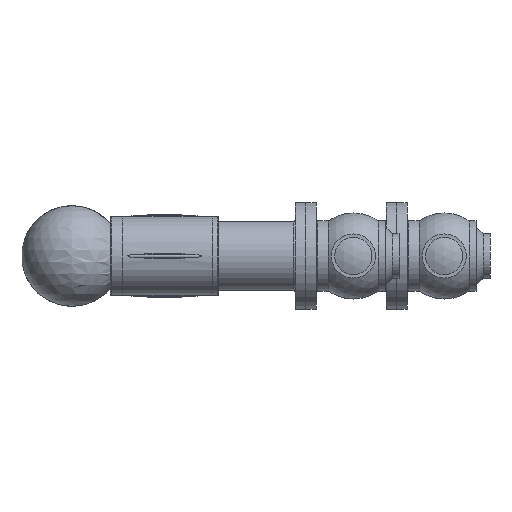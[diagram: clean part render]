
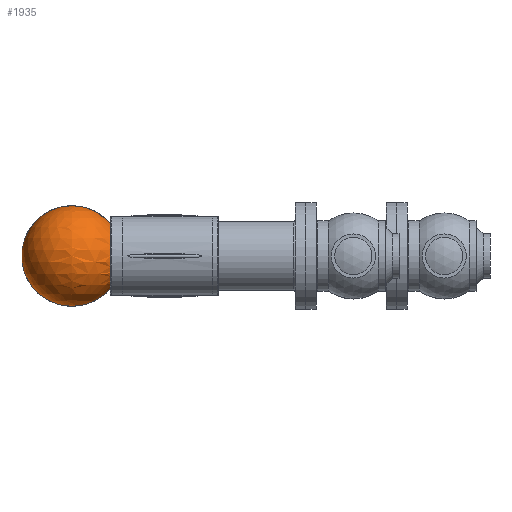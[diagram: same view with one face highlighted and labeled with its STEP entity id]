
A CAD part, left-side view. The second image highlights one B-rep face of the part: STEP entity #1935.
In plain terms, the highlighted spherical face has radius 72.5 mm.
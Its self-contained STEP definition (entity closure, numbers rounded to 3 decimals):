
#123=SPHERICAL_SURFACE('',#2257,72.5);
#355=FACE_BOUND('',#535,.T.);
#415=FACE_OUTER_BOUND('',#534,.T.);
#534=EDGE_LOOP('',(#1517,#1518));
#535=EDGE_LOOP('',(#1519));
#688=CIRCLE('',#2258,72.5);
#689=CIRCLE('',#2259,46.648);
#907=VERTEX_POINT('',#3754);
#908=VERTEX_POINT('',#3755);
#909=VERTEX_POINT('',#3757);
#1140=EDGE_CURVE('',#907,#908,#688,.T.);
#1141=EDGE_CURVE('',#909,#909,#689,.T.);
#1517=ORIENTED_EDGE('',*,*,#1140,.T.);
#1518=ORIENTED_EDGE('',*,*,#1140,.F.);
#1519=ORIENTED_EDGE('',*,*,#1141,.F.);
#1935=ADVANCED_FACE('',(#415,#355),#123,.T.);
#2257=AXIS2_PLACEMENT_3D('',#3753,#2717,#2718);
#2258=AXIS2_PLACEMENT_3D('',#3756,#2719,#2720);
#2259=AXIS2_PLACEMENT_3D('',#3758,#2721,#2722);
#2717=DIRECTION('center_axis',(0.,0.,1.));
#2718=DIRECTION('ref_axis',(1.,0.,0.));
#2719=DIRECTION('center_axis',(0.,-1.,0.));
#2720=DIRECTION('ref_axis',(-1.,0.,0.));
#2721=DIRECTION('center_axis',(0.,-1.,0.));
#2722=DIRECTION('ref_axis',(1.,0.,0.));
#3753=CARTESIAN_POINT('Origin',(150.,266.5,0.));
#3754=CARTESIAN_POINT('',(150.,266.5,72.5));
#3755=CARTESIAN_POINT('',(150.,266.5,-72.5));
#3756=CARTESIAN_POINT('Origin',(150.,266.5,0.));
#3757=CARTESIAN_POINT('',(196.648,211.,0.));
#3758=CARTESIAN_POINT('Origin',(150.,211.,0.));
